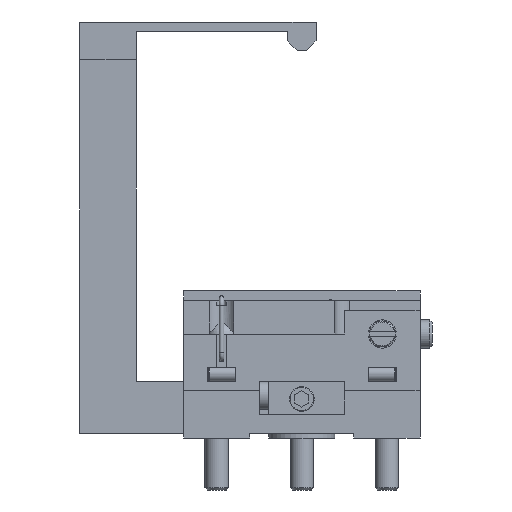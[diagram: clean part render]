
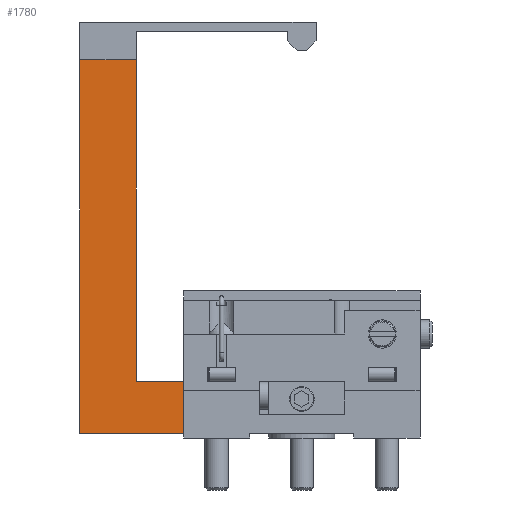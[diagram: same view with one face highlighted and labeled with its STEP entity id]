
A CAD part, left-side view. The second image highlights one B-rep face of the part: STEP entity #1780.
In plain terms, the highlighted planar face has unit normal (-1, 0, 0).
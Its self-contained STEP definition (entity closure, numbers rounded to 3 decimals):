
#1780=ADVANCED_FACE('',(#2669),#2274,.F.);
#2274=PLANE('',#11739);
#2669=FACE_OUTER_BOUND('',#3490,.T.);
#3490=EDGE_LOOP('',(#5838,#5839,#5840,#5841,#5842,#5843));
#5838=ORIENTED_EDGE('',*,*,#7825,.T.);
#5839=ORIENTED_EDGE('',*,*,#8630,.T.);
#5840=ORIENTED_EDGE('',*,*,#8106,.T.);
#5841=ORIENTED_EDGE('',*,*,#7961,.T.);
#5842=ORIENTED_EDGE('',*,*,#7931,.T.);
#5843=ORIENTED_EDGE('',*,*,#8640,.T.);
#6752=VERTEX_POINT('',#15716);
#6753=VERTEX_POINT('',#15718);
#6850=VERTEX_POINT('',#16235);
#6851=VERTEX_POINT('',#16237);
#6878=VERTEX_POINT('',#16300);
#6975=VERTEX_POINT('',#16701);
#7825=EDGE_CURVE('',#6753,#6752,#9173,.T.);
#7931=EDGE_CURVE('',#6851,#6850,#9243,.T.);
#7961=EDGE_CURVE('',#6878,#6851,#9265,.T.);
#8106=EDGE_CURVE('',#6975,#6878,#9380,.T.);
#8630=EDGE_CURVE('',#6752,#6975,#9720,.T.);
#8640=EDGE_CURVE('',#6850,#6753,#9728,.T.);
#9173=LINE('',#15717,#10157);
#9243=LINE('',#16236,#10227);
#9265=LINE('',#16299,#10249);
#9380=LINE('',#16700,#10364);
#9720=LINE('',#18458,#10704);
#9728=LINE('',#18475,#10712);
#10157=VECTOR('',#12630,1.);
#10227=VECTOR('',#12796,1.);
#10249=VECTOR('',#12846,1.);
#10364=VECTOR('',#13083,1.);
#10704=VECTOR('',#14319,1.);
#10712=VECTOR('',#14333,1.);
#11739=AXIS2_PLACEMENT_3D('',#18477,#14336,#14337);
#12630=DIRECTION('',(0.,1.,0.));
#12796=DIRECTION('',(0.,1.,0.));
#12846=DIRECTION('',(0.,0.,1.));
#13083=DIRECTION('',(0.,-1.,0.));
#14319=DIRECTION('',(0.,0.,-1.));
#14333=DIRECTION('',(0.,0.,1.));
#14336=DIRECTION('',(1.,0.,0.));
#14337=DIRECTION('',(0.,1.,0.));
#15716=CARTESIAN_POINT('',(10.5,36.,40.));
#15717=CARTESIAN_POINT('',(10.5,30.,40.));
#15718=CARTESIAN_POINT('',(10.5,30.,40.));
#16235=CARTESIAN_POINT('',(10.5,30.,6.));
#16236=CARTESIAN_POINT('',(10.5,25.,6.));
#16237=CARTESIAN_POINT('',(10.5,25.,6.));
#16299=CARTESIAN_POINT('',(10.5,25.,0.5));
#16300=CARTESIAN_POINT('',(10.5,25.,0.5));
#16700=CARTESIAN_POINT('',(10.5,36.,0.5));
#16701=CARTESIAN_POINT('',(10.5,36.,0.5));
#18458=CARTESIAN_POINT('',(10.5,36.,40.));
#18475=CARTESIAN_POINT('',(10.5,30.,6.));
#18477=CARTESIAN_POINT('',(10.5,25.,40.));
